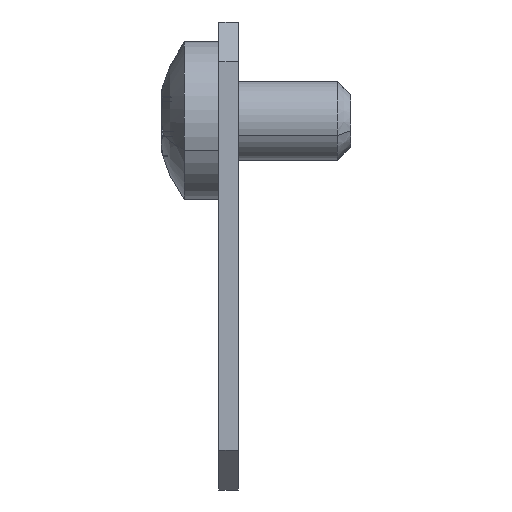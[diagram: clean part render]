
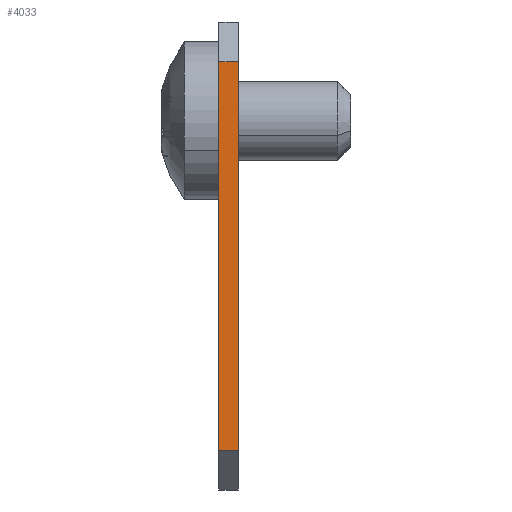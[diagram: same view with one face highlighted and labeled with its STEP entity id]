
A CAD part, front view. The second image highlights one B-rep face of the part: STEP entity #4033.
In plain terms, the highlighted planar face has unit normal (0, -1, 0).
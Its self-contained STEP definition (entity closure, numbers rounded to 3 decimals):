
#89 = ORIENTED_EDGE ( 'NONE', *, *, #995, .T. ) ;
#102 = VECTOR ( 'NONE', #4338, 1000. ) ;
#177 = DIRECTION ( 'NONE',  ( 0., 0., -1. ) ) ;
#220 = LINE ( 'NONE', #3059, #3696 ) ;
#322 = AXIS2_PLACEMENT_3D ( 'NONE', #4138, #1400, #3831 ) ;
#389 = ORIENTED_EDGE ( 'NONE', *, *, #4239, .T. ) ;
#428 = EDGE_CURVE ( 'NONE', #934, #2308, #220, .T. ) ;
#632 = VECTOR ( 'NONE', #4541, 1000. ) ;
#792 = LINE ( 'NONE', #3944, #102 ) ;
#934 = VERTEX_POINT ( 'NONE', #977 ) ;
#977 = CARTESIAN_POINT ( 'NONE',  ( 0., -245.75, 4.5 ) ) ;
#995 = EDGE_CURVE ( 'NONE', #4004, #2711, #3477, .T. ) ;
#1044 = FACE_OUTER_BOUND ( 'NONE', #3202, .T. ) ;
#1400 = DIRECTION ( 'NONE',  ( 0., -1., 0. ) ) ;
#1440 = CARTESIAN_POINT ( 'NONE',  ( 0., -245.75, -25. ) ) ;
#1471 = CARTESIAN_POINT ( 'NONE',  ( -1.5, -245.75, -25. ) ) ;
#1689 = DIRECTION ( 'NONE',  ( -1., 0., 0. ) ) ;
#1710 = CARTESIAN_POINT ( 'NONE',  ( -1.5, -245.75, 7.5 ) ) ;
#2016 = CARTESIAN_POINT ( 'NONE',  ( -1.5, -245.75, 4.5 ) ) ;
#2307 = CARTESIAN_POINT ( 'NONE',  ( -1.5, -245.75, 4.5 ) ) ;
#2308 = VERTEX_POINT ( 'NONE', #1440 ) ;
#2711 = VERTEX_POINT ( 'NONE', #1471 ) ;
#2772 = ORIENTED_EDGE ( 'NONE', *, *, #428, .F. ) ;
#2781 = PLANE ( 'NONE',  #322 ) ;
#3059 = CARTESIAN_POINT ( 'NONE',  ( 0., -245.75, 7.5 ) ) ;
#3202 = EDGE_LOOP ( 'NONE', ( #89, #389, #2772, #4329 ) ) ;
#3385 = LINE ( 'NONE', #2016, #3572 ) ;
#3477 = LINE ( 'NONE', #1710, #632 ) ;
#3572 = VECTOR ( 'NONE', #1689, 1000. ) ;
#3696 = VECTOR ( 'NONE', #177, 1000. ) ;
#3831 = DIRECTION ( 'NONE',  ( 0., 0., -1. ) ) ;
#3944 = CARTESIAN_POINT ( 'NONE',  ( -1.5, -245.75, -25. ) ) ;
#4004 = VERTEX_POINT ( 'NONE', #2307 ) ;
#4033 = ADVANCED_FACE ( 'NONE', ( #1044 ), #2781, .T. ) ;
#4138 = CARTESIAN_POINT ( 'NONE',  ( -1.5, -245.75, 7.5 ) ) ;
#4239 = EDGE_CURVE ( 'NONE', #2711, #2308, #792, .T. ) ;
#4329 = ORIENTED_EDGE ( 'NONE', *, *, #4560, .T. ) ;
#4338 = DIRECTION ( 'NONE',  ( 1., 0., 0. ) ) ;
#4541 = DIRECTION ( 'NONE',  ( 0., 0., -1. ) ) ;
#4560 = EDGE_CURVE ( 'NONE', #934, #4004, #3385, .T. ) ;
